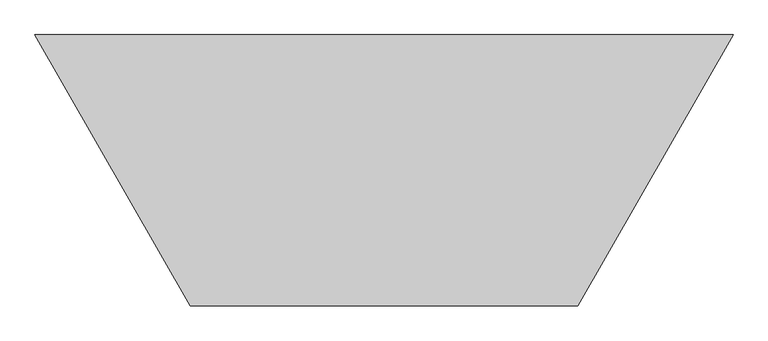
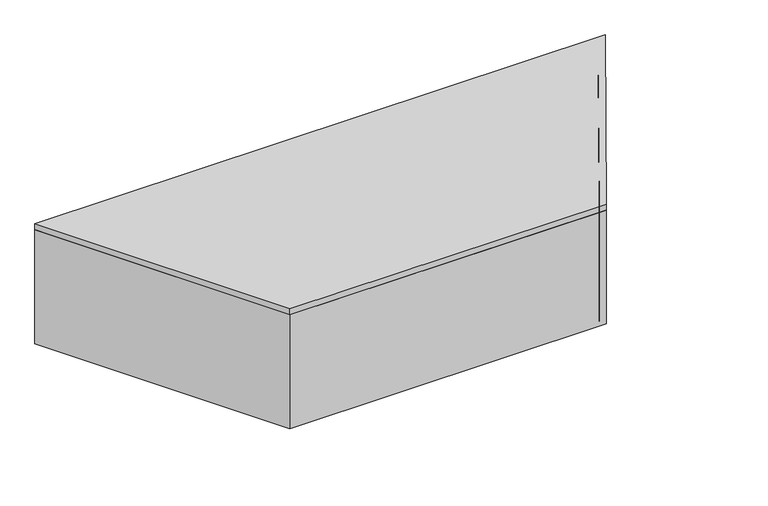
"""IFC4 building model written with IfcOpenShell, lengths in millimetres: furniture geometry, C06 Asiento Trapecio : C06 Asiento Trapecio 180x40."""

import ifcopenshell
import ifcopenshell.guid

model = None  # the IFC model being written
_history = None  # IfcOwnerHistory: only IFC2X3 demands one
_inside = {}  # id of a spatial element -> (the spatial element, [elements in it])
_under = {}  # id of a project, library or spatial element -> (it, [spatial elements below it])
_declared = {}  # id of a project -> (the project, [libraries it declares])
_typed = {}  # id of a type object -> (the type object, [elements of that type])
_made_of = {}  # id of a material, layer set ... -> (it, [elements and type objects made of it])


def new_model(schema):
    """Start an empty IFC model of exactly this schema.

    Asked for "IFC4X3", IfcOpenShell would pick the latest addendum, in which some entities
    have other attributes; the version numbers below select the first issue.
    IFC2X3 requires an IfcOwnerHistory on every rooted entity: one is made here for all.
    """
    global model, _history
    if schema == "IFC4X3":
        model = ifcopenshell.file(schema_version=(4, 3, 0, 0))
    else:
        model = ifcopenshell.file(schema=schema)
    _inside.clear()
    _under.clear()
    _declared.clear()
    _typed.clear()
    _made_of.clear()
    _history = None
    if model.schema == "IFC2X3":
        org = make("IfcOrganization", Name="unknown")
        user = make(
            "IfcPersonAndOrganization",
            ThePerson=make("IfcPerson", FamilyName="unknown"),
            TheOrganization=org,
        )
        app = make(
            "IfcApplication",
            ApplicationDeveloper=org,
            Version="unknown",
            ApplicationFullName="unknown",
            ApplicationIdentifier="unknown",
        )
        _history = make(
            "IfcOwnerHistory",
            OwningUser=user,
            OwningApplication=app,
            ChangeAction="ADDED",
            CreationDate=0,
        )
    return model


def make(cls, **values):
    """One entity of the class cls with the attributes given. An attribute that is None is left unset."""
    return model.create_entity(
        cls, **{name: value for name, value in values.items() if value is not None}
    )


def rooted(cls, **values):
    """An entity with a GlobalId (a new one), such as an element, a storey or a relation."""
    return make(cls, GlobalId=ifcopenshell.guid.new(), OwnerHistory=_history, **values)


def si_unit(unit_type, name, prefix=None):
    """IfcSIUnit, for example si_unit("LENGTHUNIT", "METRE", prefix="MILLI")."""
    return make("IfcSIUnit", UnitType=unit_type, Prefix=prefix, Name=name)


def assignment(units):
    """IfcUnitAssignment: the units of a project."""
    return None if units is None else make("IfcUnitAssignment", Units=units)


def point(xyz):
    """IfcCartesianPoint."""
    return None if xyz is None else make("IfcCartesianPoint", Coordinates=xyz)


def direction(xyz):
    """IfcDirection."""
    return None if xyz is None else make("IfcDirection", DirectionRatios=xyz)


def frame(location, z_axis=None, x_axis=None):
    """IfcAxis2Placement3D, a coordinate frame: its origin and axes. An axis left out is left unset."""
    return make(
        "IfcAxis2Placement3D",
        Location=point(location),
        Axis=direction(z_axis),
        RefDirection=direction(x_axis),
    )


def origin():
    """The frame at (0, 0, 0) with its axes left unset."""
    return frame((0.0, 0.0, 0.0))


def origin_with_axes():
    """The frame at (0, 0, 0) with the z axis (0, 0, 1) and the x axis (1, 0, 0) written out."""
    return frame((0.0, 0.0, 0.0), z_axis=(0.0, 0.0, 1.0), x_axis=(1.0, 0.0, 0.0))


def place(relative_to, where):
    """IfcLocalPlacement: puts the frame where relative to a parent placement (None: the world)."""
    return make(
        "IfcLocalPlacement", PlacementRelTo=relative_to, RelativePlacement=where
    )


def context(
    kind, dimensions, precision=None, world=None, true_north=None, identifier=None
):
    """IfcGeometricRepresentationContext, for example the 3D "Model" context."""
    return make(
        "IfcGeometricRepresentationContext",
        ContextIdentifier=identifier,
        ContextType=kind,
        CoordinateSpaceDimension=dimensions,
        Precision=precision,
        WorldCoordinateSystem=world,
        TrueNorth=true_north,
    )


def project(units=None, contexts=None):
    """IfcProject with its units and contexts."""
    return rooted(
        "IfcProject",
        Name="project",
        RepresentationContexts=contexts,
        UnitsInContext=assignment(units),
    )


def spatial(cls, under=None, at=None, **own):
    """A site, building, storey or space (cls), placed at a placement, below another one or the project."""
    s = rooted(cls, ObjectPlacement=at, **own)
    if under is not None:
        _under.setdefault(under.id(), (under, []))[1].append(s)
    return s


def polyline(points):
    """IfcPolyline through the points."""
    return make("IfcPolyline", Points=[point(p) for p in points])


def outline(outer, holes=None, kind="AREA"):
    """IfcArbitraryClosedProfileDef: a profile drawn as a closed curve; with holes, ...WithVoids."""
    if holes is None:
        return make("IfcArbitraryClosedProfileDef", ProfileType=kind, OuterCurve=outer)
    return make(
        "IfcArbitraryProfileDefWithVoids",
        ProfileType=kind,
        OuterCurve=outer,
        InnerCurves=holes,
    )


def extrude(swept, where, along, depth):
    """IfcExtrudedAreaSolid: the profile swept, set in the frame where, extruded along a direction by depth."""
    return make(
        "IfcExtrudedAreaSolid",
        SweptArea=swept,
        Position=where,
        ExtrudedDirection=direction(along),
        Depth=depth,
    )


def shape(context_of_items, identifier, shape_type, items):
    """IfcShapeRepresentation: the items that make up one representation, for example the "Body"."""
    return make(
        "IfcShapeRepresentation",
        ContextOfItems=context_of_items,
        RepresentationIdentifier=identifier,
        RepresentationType=shape_type,
        Items=items,
    )


def source(mapping_origin, context_of_items, identifier, shape_type, items):
    """IfcRepresentationMap: a shape defined once, which mapped items show again and again."""
    return make(
        "IfcRepresentationMap",
        MappingOrigin=mapping_origin,
        MappedRepresentation=shape(context_of_items, identifier, shape_type, items),
    )


def transform(
    local_origin,
    x_axis=None,
    y_axis=None,
    z_axis=None,
    scale=None,
    scale2=None,
    scale3=None,
    uniform=True,
):
    """IfcCartesianTransformationOperator3D, or its non-uniform kind. x_axis, y_axis, z_axis: its Axis1, 2, 3."""
    if uniform:
        return make(
            "IfcCartesianTransformationOperator3D",
            Axis1=direction(x_axis),
            Axis2=direction(y_axis),
            LocalOrigin=point(local_origin),
            Scale=scale,
            Axis3=direction(z_axis),
        )
    return make(
        "IfcCartesianTransformationOperator3DnonUniform",
        Axis1=direction(x_axis),
        Axis2=direction(y_axis),
        LocalOrigin=point(local_origin),
        Scale=scale,
        Axis3=direction(z_axis),
        Scale2=scale2,
        Scale3=scale3,
    )


def mapped(mapping_source, mapping_target):
    """IfcMappedItem: shows the shape of a source again, moved by a transform."""
    return make(
        "IfcMappedItem", MappingSource=mapping_source, MappingTarget=mapping_target
    )


def made_of(thing, what):
    """Note that an element or type object is made of a material, layer set ...; save() writes the relation."""
    if what is not None:
        _made_of.setdefault(what.id(), (what, []))[1].append(thing)
    return thing


def element(
    cls,
    number,
    at=None,
    inside=None,
    cuts=None,
    type_object=None,
    material=None,
    context=None,
    identifier="Body",
    shape_type=None,
    held_by="IfcProductDefinitionShape",
    body=None,
    shapes=None,
    **own,
):
    """One element of the class cls, such as IfcWall. Its Tag is "e" and its number.

    at: its placement. inside: the storey or other place that contains it. cuts: it is an
    opening in that element (IfcRelVoidsElement). A single representation is given by context,
    identifier, shape_type and body (its items); several are given by shapes. held_by: the class
    of the entity that holds the representations. save() writes the other relations.
    """
    e = rooted(cls, Tag="e%d" % number, ObjectPlacement=at, **own)
    if body is not None:
        shapes = [shape(context, identifier, shape_type, body)]
    if shapes is not None:
        e.Representation = make(held_by, Representations=shapes)
    if inside is not None:
        _inside.setdefault(inside.id(), (inside, []))[1].append(e)
    if cuts is not None:
        rooted(
            "IfcRelVoidsElement", RelatingBuildingElement=cuts, RelatedOpeningElement=e
        )
    if type_object is not None:
        _typed.setdefault(type_object.id(), (type_object, []))[1].append(e)
    return made_of(e, material)


def aggregate(whole, parts):
    """IfcRelAggregates: a whole, such as a stair, and the parts it consists of."""
    return rooted("IfcRelAggregates", RelatingObject=whole, RelatedObjects=parts)


def save(model, path):
    """Write the relations noted so far, then the file.

    IfcRelAggregates (storeys below a building ...), IfcRelContainedInSpatialStructure (elements
    in a storey), IfcRelDefinesByType, IfcRelAssociatesMaterial and IfcRelDeclares: one each for
    every whole, place, type object, material and project.
    """
    for whole, parts in _under.values():
        aggregate(whole, parts)
    for where, things in _inside.values():
        rooted(
            "IfcRelContainedInSpatialStructure",
            RelatedElements=things,
            RelatingStructure=where,
        )
    for kind, things in _typed.values():
        rooted("IfcRelDefinesByType", RelatedObjects=things, RelatingType=kind)
    for what, things in _made_of.values():
        rooted("IfcRelAssociatesMaterial", RelatedObjects=things, RelatingMaterial=what)
    for by, libraries in _declared.values():
        rooted("IfcRelDeclares", RelatingContext=by, RelatedDefinitions=libraries)
    model.write(path)


def furniture_b6be04e7(model_context):
    return source(origin(), model_context, "Body", "SweptSolid", [
        extrude(outline(polyline([(-500.0, -700.0), (-900.0, 0.0), (900.0, 0.0), (500.0, -700.0), (-500.0, -700.0)]), holes=[polyline([(-865.5364064, -20.0), (-488.3935493, -680.0), (488.3935493, -680.0), (865.5364064, -20.0), (-865.5364064, -20.0)])]), origin_with_axes(), (0.0, 0.0, 1.0), 380.0),
        extrude(outline(polyline([(900.0, 0.0), (500.0, -700.0), (-500.0, -700.0), (-900.0, 0.0), (900.0, 0.0)])), frame((0.0, 0.0, 380.0), z_axis=(0.0, 0.0, 1.0), x_axis=(1.0, 0.0, 0.0)), (0.0, 0.0, 1.0), 20.0),
    ])


if __name__ == "__main__":
    model = new_model("IFC4")
    model_context = context("Model", 3, world=origin())
    ifc_project = project(units=[si_unit("LENGTHUNIT", "METRE", prefix="MILLI")], contexts=[model_context])
    site = spatial("IfcSite", under=ifc_project)
    building = spatial("IfcBuilding", under=site)
    placement = place(None, origin())
    furniture_shape = furniture_b6be04e7(model_context)
    element("IfcFurniture", 1, ObjectType="C06 Asiento Trapecio : C06 Asiento Trapecio 180x40", at=placement, inside=building, context=model_context, shape_type="MappedRepresentation", body=[
        mapped(furniture_shape, transform((0.0, 0.0, 0.0), x_axis=(1.0, 0.0, 0.0), y_axis=(0.0, 1.0, 0.0), z_axis=(0.0, 0.0, 1.0))),
    ])
    save(model, "model.ifc")
